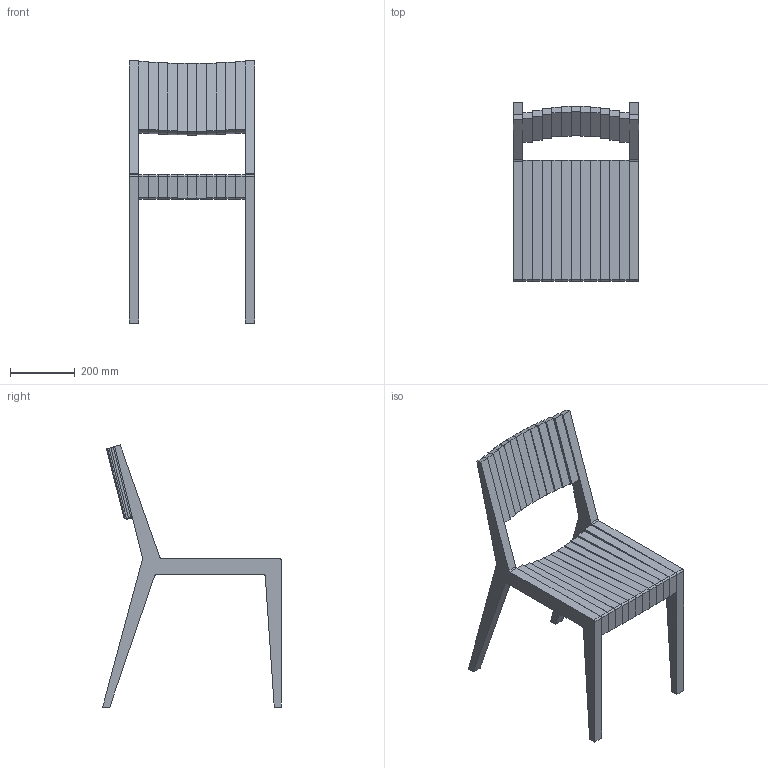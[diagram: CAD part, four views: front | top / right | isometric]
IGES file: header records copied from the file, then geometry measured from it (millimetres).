
Start section: Data from Parasolid IGES Translator 17.0.49, Copyright(c) 2006 Siemens P LM Software. All Rights Reserved.
Global section: file name: FRED.igs; native system: By Siemens PLM Incorporated; preprocessor: XPlus GENERIC/IGES 17.0.49; author: Noname; organization: Noname; date: 20170605.171118; units: metre
Bounding box: 390 x 553.54 x 812.07 mm (x, y, z)
Volume: 10364139.1 mm3; surface area: 1338305 mm2
Topology: 24 solids, 24 shells, 212 faces, 492 edges, 328 vertices
Faces by surface type: plane 158, cylinder 54
